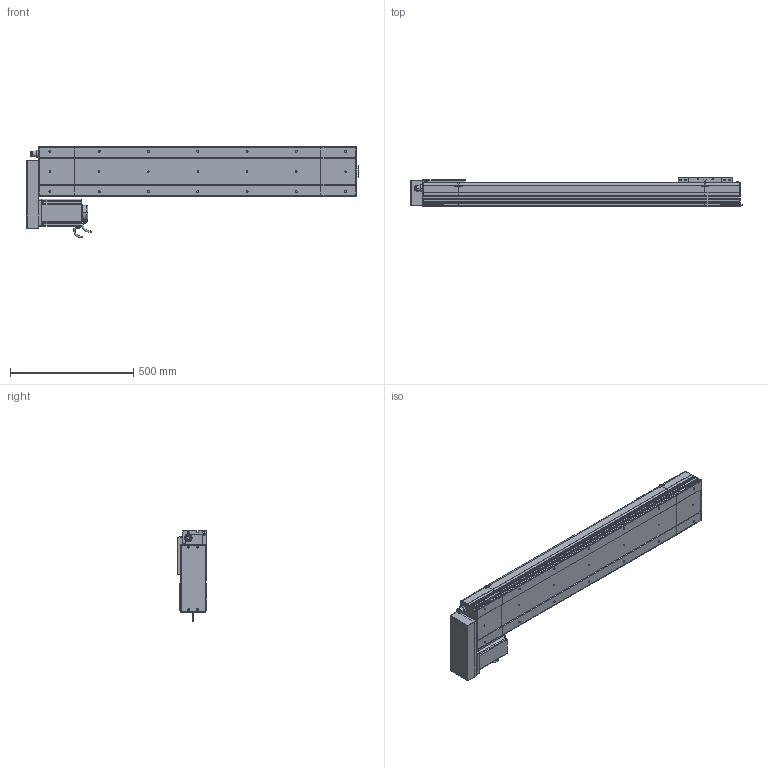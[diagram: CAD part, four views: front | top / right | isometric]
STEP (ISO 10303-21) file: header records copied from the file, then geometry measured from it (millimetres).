
FILE_DESCRIPTION (( 'STEP AP214' ), '1' );
FILE_NAME ('D20 CSH BR S1000.STEP', '2010-06-30T08:15:10', ( 'Conseil Régional Haute-Normandie' ), ( 'Conseil Régional Haute-Normandie' ), 'SwSTEP 2.0', 'SolidWorks 2010', '' );
FILE_SCHEMA (( 'AUTOMOTIVE_DESIGN' ));
Length unit declared in the file: millimetre
Products named in the file (31): ecrou_Default; vis M5 L15_Default; vis M5 L47_Default; Cache Moteur BR D20_Default; vis M5 L30_Default; clavette; Conecteur_Default; Conecteur2_Default; codeur 110BLDC170A-630x; corps 110BLDC170A-630x; Plaque de Bout Head BR D20_Default; Corp Head BR D20_Default; Moteur motionking 110BLDC170A-640x; Support moteur BR D20_Default; avant 110BLDC170A-630x; Plaque De Serrage Head BR D20_Default; Couvercle Head BR_Default; Tail D20_Default; D20 CSH BR S1000; Plaque de Bout Tail D20_Default; Couvercle_Default; Corp Tail D20_Default; Corp S1000_Default; Corp D20 S1000_Default; Plaque De Serrage D20_Default; Support Chariot D20_Default; Chariot D20_Default; Couvercle S1000_Default; Head D20 BR_Default; Glissiere_Default
Assembly tree (60 placements, depth 4):
  D20 CSH BR S1000
    Head D20 BR_Default
      Couvercle Head BR_Default
      Support moteur BR D20_Default
      ecrou_Default  x4
      vis M5 L15_Default  x8
      vis M5 L30_Default  x4
      Moteur motionking 110BLDC170A-640x
        avant 110BLDC170A-630x
        Conecteur2_Default
        Conecteur_Default
        corps 110BLDC170A-630x
        codeur 110BLDC170A-630x
        clavette
      Corp Head BR D20_Default
      vis M5 L47_Default  x4
      Plaque de Bout Head BR D20_Default
      Plaque De Serrage Head BR D20_Default
      Cache Moteur BR D20_Default
    Chariot D20_Default
      vis M5 L15_Default  x8
      Chariot D20_Default
      Support Chariot D20_Default
      Glissiere_Default
    Tail D20_Default
      vis M5 L15_Default  x6
      Plaque de Bout Tail D20_Default
      Plaque De Serrage D20_Default
      Corp Tail D20_Default
      Couvercle_Default
    Corp D20 S1000_Default
      Corp S1000_Default
      Couvercle S1000_Default
Bounding box: 1347.7 x 120 x 372 mm (x, y, z)
Volume: 11176985.6 mm3; surface area: 2123355.2 mm2
Topology: 97 solids, 97 shells, 3565 faces, 8951 edges, 5829 vertices
Faces by surface type: plane 2006, bspline 806, cylinder 607, torus 83, cone 63
Entity records: 156761 total; most frequent: CARTESIAN_POINT 81849, ORIENTED_EDGE 14850, DIRECTION 11103, EDGE_CURVE 7425, VERTEX_POINT 4917, VECTOR 4865, LINE 4865, EDGE_LOOP 3168
